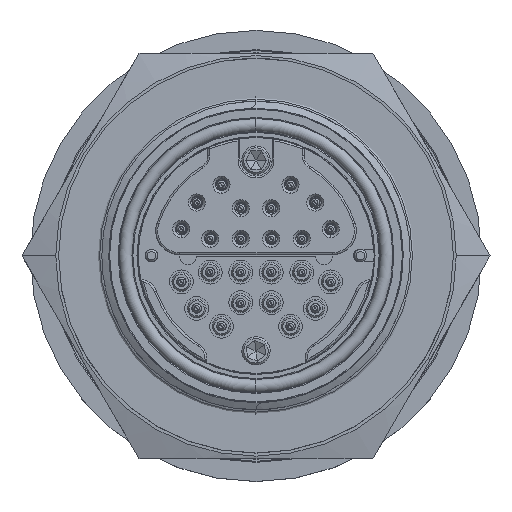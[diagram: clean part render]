
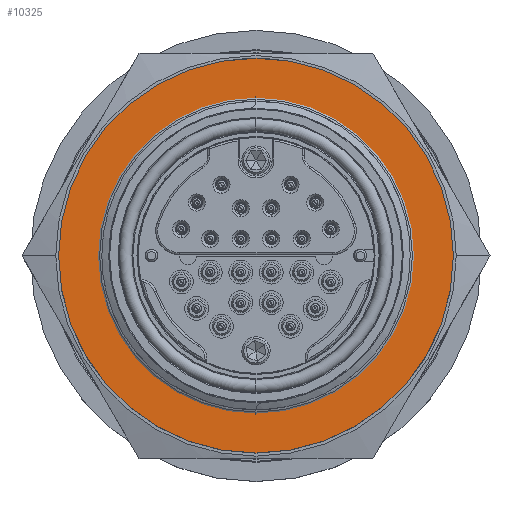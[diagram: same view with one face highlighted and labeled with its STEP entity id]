
A CAD part, top view. The second image highlights one B-rep face of the part: STEP entity #10325.
In plain terms, the highlighted planar face has unit normal (0, 0, 1).
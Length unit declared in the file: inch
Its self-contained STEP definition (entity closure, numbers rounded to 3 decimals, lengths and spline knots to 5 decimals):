
#827 = DIRECTION ( 'NONE',  ( 0., 0., 1. ) ) ;
#3510 = CIRCLE ( 'NONE', #16946, 0.82 ) ;
#4215 = CARTESIAN_POINT ( 'NONE',  ( 0., 0.82, -0.502 ) ) ;
#4371 = AXIS2_PLACEMENT_3D ( 'NONE', #22200, #62588, #37406 ) ;
#4751 = ORIENTED_EDGE ( 'NONE', *, *, #26575, .T. ) ;
#5184 = ORIENTED_EDGE ( 'NONE', *, *, #36920, .T. ) ;
#6845 = FACE_BOUND ( 'NONE', #35432, .T. ) ;
#7396 = DIRECTION ( 'NONE',  ( 0., 0., 1. ) ) ;
#7422 = AXIS2_PLACEMENT_3D ( 'NONE', #61430, #42054, #55345 ) ;
#7479 = PLANE ( 'NONE',  #9649 ) ;
#9649 = AXIS2_PLACEMENT_3D ( 'NONE', #16539, #41427, #12662 ) ;
#10325 = ADVANCED_FACE ( 'NONE', ( #6845, #42397 ), #7479, .F. ) ;
#10513 = VERTEX_POINT ( 'NONE', #13915 ) ;
#12662 = DIRECTION ( 'NONE',  ( 0., -1., 0. ) ) ;
#13915 = CARTESIAN_POINT ( 'NONE',  ( 0., -1.035, -0.502 ) ) ;
#15295 = ORIENTED_EDGE ( 'NONE', *, *, #31648, .F. ) ;
#16539 = CARTESIAN_POINT ( 'NONE',  ( -1.035, 0., -0.502 ) ) ;
#16946 = AXIS2_PLACEMENT_3D ( 'NONE', #40600, #827, #39046 ) ;
#22200 = CARTESIAN_POINT ( 'NONE',  ( 0., 0., -0.502 ) ) ;
#26575 = EDGE_CURVE ( 'NONE', #34131, #10513, #34172, .T. ) ;
#27451 = CIRCLE ( 'NONE', #32626, 1.035 ) ;
#31648 = EDGE_CURVE ( 'NONE', #32871, #58802, #43586, .T. ) ;
#32626 = AXIS2_PLACEMENT_3D ( 'NONE', #51982, #7396, #42303 ) ;
#32871 = VERTEX_POINT ( 'NONE', #4215 ) ;
#34131 = VERTEX_POINT ( 'NONE', #54789 ) ;
#34172 = CIRCLE ( 'NONE', #7422, 1.035 ) ;
#35432 = EDGE_LOOP ( 'NONE', ( #15295, #39169 ) ) ;
#36920 = EDGE_CURVE ( 'NONE', #10513, #34131, #27451, .T. ) ;
#37406 = DIRECTION ( 'NONE',  ( 0., 1., 0. ) ) ;
#39046 = DIRECTION ( 'NONE',  ( 0., 1., 0. ) ) ;
#39169 = ORIENTED_EDGE ( 'NONE', *, *, #52007, .F. ) ;
#40600 = CARTESIAN_POINT ( 'NONE',  ( 0., 0., -0.502 ) ) ;
#41427 = DIRECTION ( 'NONE',  ( 0., 0., -1. ) ) ;
#42054 = DIRECTION ( 'NONE',  ( 0., 0., 1. ) ) ;
#42303 = DIRECTION ( 'NONE',  ( 0., 1., 0. ) ) ;
#42397 = FACE_OUTER_BOUND ( 'NONE', #62721, .T. ) ;
#43586 = CIRCLE ( 'NONE', #4371, 0.82 ) ;
#46773 = CARTESIAN_POINT ( 'NONE',  ( 0., -0.82, -0.502 ) ) ;
#51982 = CARTESIAN_POINT ( 'NONE',  ( 0., 0., -0.502 ) ) ;
#52007 = EDGE_CURVE ( 'NONE', #58802, #32871, #3510, .T. ) ;
#54789 = CARTESIAN_POINT ( 'NONE',  ( 0., 1.035, -0.502 ) ) ;
#55345 = DIRECTION ( 'NONE',  ( 0., 1., 0. ) ) ;
#58802 = VERTEX_POINT ( 'NONE', #46773 ) ;
#61430 = CARTESIAN_POINT ( 'NONE',  ( 0., 0., -0.502 ) ) ;
#62588 = DIRECTION ( 'NONE',  ( 0., 0., 1. ) ) ;
#62721 = EDGE_LOOP ( 'NONE', ( #4751, #5184 ) ) ;
